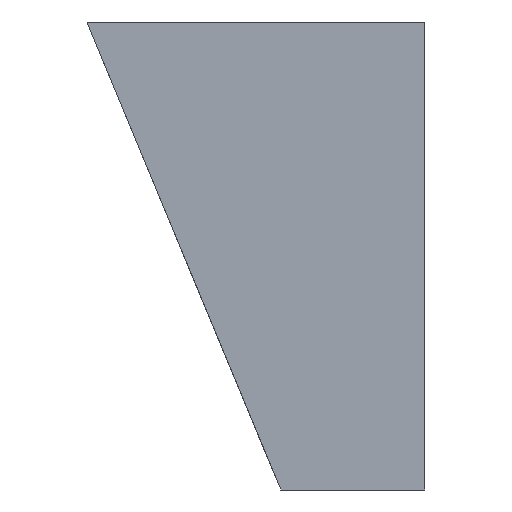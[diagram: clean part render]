
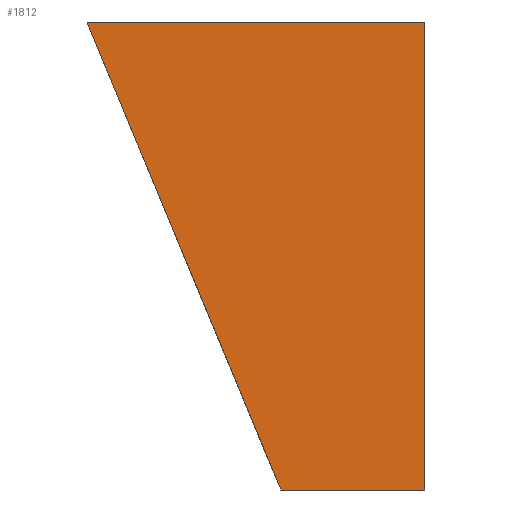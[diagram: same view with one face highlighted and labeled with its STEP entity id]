
A CAD part, front view. The second image highlights one B-rep face of the part: STEP entity #1812.
In plain terms, the highlighted planar face has unit normal (0, -1, 0).
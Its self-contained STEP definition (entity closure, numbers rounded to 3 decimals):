
#127 = CARTESIAN_POINT ( 'NONE',  ( 6800., 2745., 4000. ) ) ;
#201 = CARTESIAN_POINT ( 'NONE',  ( 6930., 2745., 4180. ) ) ;
#229 = EDGE_CURVE ( 'NONE', #3086, #1811, #1941, .T. ) ;
#307 = EDGE_CURVE ( 'NONE', #3086, #2269, #620, .T. ) ;
#372 = CARTESIAN_POINT ( 'NONE',  ( 6930., 2745., 4000. ) ) ;
#399 = CARTESIAN_POINT ( 'NONE',  ( 6800., 2745., 4180. ) ) ;
#466 = CARTESIAN_POINT ( 'NONE',  ( 6930., 2745., 4180. ) ) ;
#620 = LINE ( 'NONE', #127, #1866 ) ;
#867 = ORIENTED_EDGE ( 'NONE', *, *, #2139, .F. ) ;
#1297 = DIRECTION ( 'NONE',  ( 1., 0., 0. ) ) ;
#1305 = CARTESIAN_POINT ( 'NONE',  ( 6800., 2745., 4180. ) ) ;
#1718 = ORIENTED_EDGE ( 'NONE', *, *, #3217, .T. ) ;
#1762 = EDGE_LOOP ( 'NONE', ( #2973, #3118, #1718, #867 ) ) ;
#1811 = VERTEX_POINT ( 'NONE', #2202 ) ;
#1812 = ADVANCED_FACE ( 'NONE', ( #3012 ), #2131, .F. ) ;
#1813 = VECTOR ( 'NONE', #2319, 1000. ) ;
#1866 = VECTOR ( 'NONE', #1297, 1000. ) ;
#1941 = LINE ( 'NONE', #1305, #2536 ) ;
#2131 = PLANE ( 'NONE',  #2787 ) ;
#2139 = EDGE_CURVE ( 'NONE', #1811, #3172, #2598, .T. ) ;
#2202 = CARTESIAN_POINT ( 'NONE',  ( 6800., 2745., 4180. ) ) ;
#2269 = VERTEX_POINT ( 'NONE', #372 ) ;
#2319 = DIRECTION ( 'NONE',  ( 1., 0., 0. ) ) ;
#2536 = VECTOR ( 'NONE', #2757, 1000. ) ;
#2598 = LINE ( 'NONE', #3769, #1813 ) ;
#2757 = DIRECTION ( 'NONE',  ( -0.383, 0., 0.924 ) ) ;
#2787 = AXIS2_PLACEMENT_3D ( 'NONE', #399, #3736, #3126 ) ;
#2973 = ORIENTED_EDGE ( 'NONE', *, *, #229, .F. ) ;
#2976 = VECTOR ( 'NONE', #3711, 1000. ) ;
#3012 = FACE_OUTER_BOUND ( 'NONE', #1762, .T. ) ;
#3086 = VERTEX_POINT ( 'NONE', #3614 ) ;
#3103 = LINE ( 'NONE', #201, #2976 ) ;
#3118 = ORIENTED_EDGE ( 'NONE', *, *, #307, .T. ) ;
#3126 = DIRECTION ( 'NONE',  ( 0., 0., 1. ) ) ;
#3172 = VERTEX_POINT ( 'NONE', #466 ) ;
#3217 = EDGE_CURVE ( 'NONE', #2269, #3172, #3103, .T. ) ;
#3614 = CARTESIAN_POINT ( 'NONE',  ( 6874.558, 2745., 4000. ) ) ;
#3711 = DIRECTION ( 'NONE',  ( 0., 0., 1. ) ) ;
#3736 = DIRECTION ( 'NONE',  ( 0., 1., 0. ) ) ;
#3769 = CARTESIAN_POINT ( 'NONE',  ( 6800., 2745., 4180. ) ) ;
